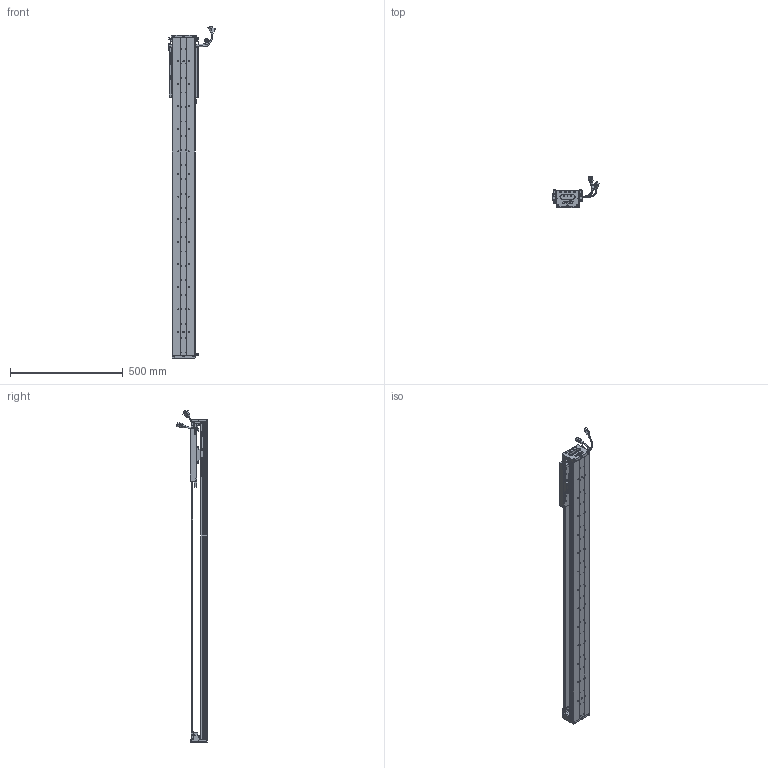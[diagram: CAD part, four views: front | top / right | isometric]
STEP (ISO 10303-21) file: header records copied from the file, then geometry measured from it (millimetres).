
FILE_DESCRIPTION (( 'STEP AP203' ), '1' );
FILE_NAME ('Z3-RY100D-1-L500-B-K.SLDASM_1100.step', '2021-05-17T02:50:25', ( '盈信电脑' ), ( '东莞市道滘镇水果街19号' ), 'SwSTEP 2.0', 'SolidWorks 2016', '' );
FILE_SCHEMA (( 'CONFIG_CONTROL_DESIGN' ));
Length unit declared in the file: millimetre
Products named in the file (36): Z3-RY100-L500詩湍90mm遵_1100; COVER-Part-1; SCREW-M1.6-1; SCREW-M1.6; HARNESS-Part-1; Z-RY100D覜茼んえ; LABEL; Z3-RY100D-500-倰第菁釱_1100; HOLDER0; COVER; Z-100詩湍傷裔啣; SCALE; SEAL-Part-1; SCREW-M1.6-2; HARNESS; 140雄赽晤鎢ん堤盄; 覜茼ん672; SCREW-M1.6-3; Z-RY100D詩湍奻揤裔; SCREW-M1.7-1; SCALE-Part-1; 榋妏寠巭燃_暯_M2_2; Z-RY100D詩湍狟揤裔; SHIELDPLATE; 140蚥薯蝶輸; SEAL; PBU_SHEET; SCALE-Part-2; Z3-RY100铝滑块（21款）; LABEL-Part-1; PSLH080_PSLF2; 100-Z-臏賑輸盄裔(21遴); 080黍杅芛假蚾釱21遴; SCREW-M1.7; HARNESS-Part-2; Z3-RY100D-1-L500-B-K.SLDASM_1100
Assembly tree (43 placements, depth 4):
  Z3-RY100D-1-L500-B-K.SLDASM_1100
    Z3-RY100D-500-倰第菁釱_1100
    Z3-RY100铝滑块（21款）
    PSLH080_PSLF2
      SCALE
        SCALE-Part-1
        SCALE-Part-2
      HARNESS
        HARNESS-Part-1
        HARNESS-Part-2
      LABEL
        LABEL-Part-1
      COVER
        COVER-Part-1
      SEAL
        SEAL-Part-1
      榋妏寠巭燃_暯_M2_2
      SHIELDPLATE
      SCREW-M1.7
      SCREW-M1.7-1
      PBU_SHEET
      SCREW-M1.6
      SCREW-M1.6-1
      SCREW-M1.6-2
      SCREW-M1.6-3
      HOLDER0
    080黍杅芛假蚾釱21遴
    Z-100詩湍傷裔啣  x2
    140蚥薯蝶輸  x2
    覜茼ん672  x3
    Z-RY100D覜茼んえ  x3
    100-Z-臏賑輸盄裔(21遴)
    140雄赽晤鎢ん堤盄
    Z3-RY100-L500詩湍90mm遵_1100
    Z-RY100D詩湍狟揤裔  x2
    Z-RY100D詩湍奻揤裔  x2
Bounding box: 205.84 x 136.11 x 1470.43 mm (x, y, z)
Volume: 2976634.6 mm3; surface area: 1146782.8 mm2
Topology: 38 solids, 38 shells, 2669 faces, 7069 edges, 4480 vertices
Faces by surface type: cylinder 1190, plane 1131, cone 226, torus 69, bspline 53
Entity records: 73583 total; most frequent: CARTESIAN_POINT 15477, DIRECTION 11703, ORIENTED_EDGE 11018, EDGE_CURVE 5509, AXIS2_PLACEMENT_3D 4326, VERTEX_POINT 3548, VECTOR 3051, LINE 3051
